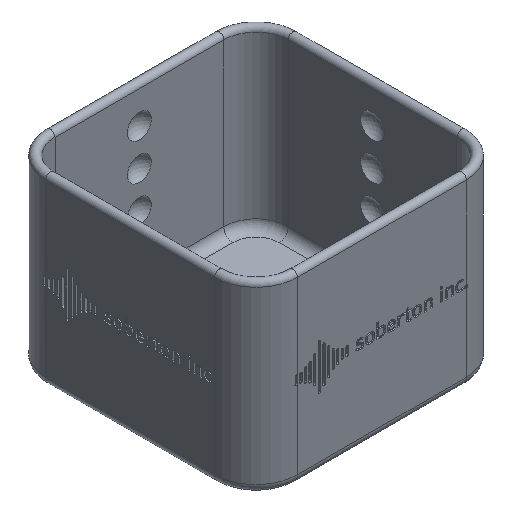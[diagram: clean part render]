
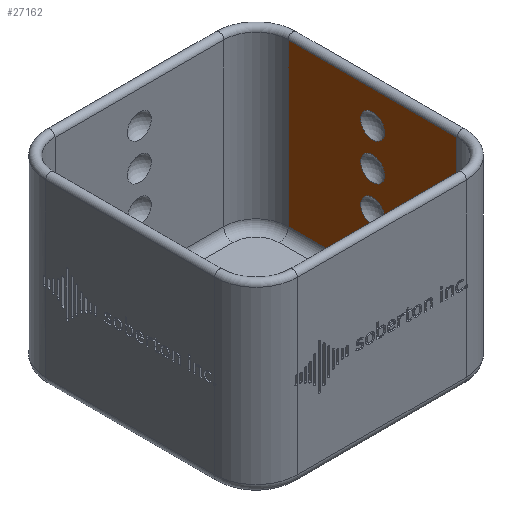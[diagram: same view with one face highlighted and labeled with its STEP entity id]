
A CAD part, isometric view. The second image highlights one B-rep face of the part: STEP entity #27162.
In plain terms, the highlighted planar face has unit normal (-1, 0, 0).
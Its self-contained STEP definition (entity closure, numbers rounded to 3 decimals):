
#2924=PLANE('',#28227);
#4734=VECTOR('',#31231,1.);
#4736=VECTOR('',#31236,1.);
#4737=VECTOR('',#31237,1.);
#4738=VECTOR('',#31238,1.);
#6875=LINE('',#44678,#4734);
#6877=LINE('',#44684,#4736);
#6878=LINE('',#44686,#4737);
#6879=LINE('',#44688,#4738);
#9462=VERTEX_POINT('',#44676);
#9464=VERTEX_POINT('',#44679);
#9466=VERTEX_POINT('',#44685);
#9467=VERTEX_POINT('',#44687);
#9468=VERTEX_POINT('',#44690);
#9469=VERTEX_POINT('',#44692);
#9470=VERTEX_POINT('',#44694);
#9471=VERTEX_POINT('',#44696);
#10236=CIRCLE('',#28228,2.598);
#10237=CIRCLE('',#28229,2.598);
#10238=CIRCLE('',#28230,2.598);
#10239=CIRCLE('',#28231,2.598);
#13552=EDGE_CURVE('',#9462,#9464,#6875,.T.);
#13555=EDGE_CURVE('',#9466,#9462,#6877,.T.);
#13556=EDGE_CURVE('',#9467,#9466,#6878,.T.);
#13557=EDGE_CURVE('',#9464,#9467,#6879,.T.);
#13558=EDGE_CURVE('',#9468,#9468,#10236,.T.);
#13559=EDGE_CURVE('',#9469,#9469,#10237,.T.);
#13560=EDGE_CURVE('',#9470,#9470,#10238,.T.);
#13561=EDGE_CURVE('',#9471,#9471,#10239,.T.);
#20790=ORIENTED_EDGE('',*,*,#13555,.F.);
#20791=ORIENTED_EDGE('',*,*,#13556,.F.);
#20792=ORIENTED_EDGE('',*,*,#13557,.F.);
#20793=ORIENTED_EDGE('',*,*,#13552,.F.);
#20794=ORIENTED_EDGE('',*,*,#13558,.T.);
#20795=ORIENTED_EDGE('',*,*,#13559,.T.);
#20796=ORIENTED_EDGE('',*,*,#13560,.T.);
#20797=ORIENTED_EDGE('',*,*,#13561,.T.);
#23895=EDGE_LOOP('',(#20790,#20791,#20792,#20793));
#23896=EDGE_LOOP('',(#20794));
#23897=EDGE_LOOP('',(#20795));
#23898=EDGE_LOOP('',(#20796));
#23899=EDGE_LOOP('',(#20797));
#25584=FACE_BOUND('',#23895,.T.);
#25585=FACE_BOUND('',#23896,.T.);
#25586=FACE_BOUND('',#23897,.T.);
#25587=FACE_BOUND('',#23898,.T.);
#25588=FACE_BOUND('',#23899,.T.);
#27162=ADVANCED_FACE('',(#25584,#25585,#25586,#25587,#25588),#2924,.F.);
#28227=AXIS2_PLACEMENT_3D('',#44683,#31235,$);
#28228=AXIS2_PLACEMENT_3D('',#44689,#31239,#31240);
#28229=AXIS2_PLACEMENT_3D('',#44691,#31241,#31242);
#28230=AXIS2_PLACEMENT_3D('',#44693,#31243,#31244);
#28231=AXIS2_PLACEMENT_3D('',#44695,#31245,#31246);
#31231=DIRECTION('',(0.,0.,-1.));
#31235=DIRECTION('',(1.,0.,0.));
#31236=DIRECTION('',(0.,-1.,0.));
#31237=DIRECTION('',(0.,0.,1.));
#31238=DIRECTION('',(0.,1.,0.));
#31239=DIRECTION('',(1.,0.,0.));
#31240=DIRECTION('',(0.,0.,-2.598));
#31241=DIRECTION('',(1.,0.,0.));
#31242=DIRECTION('',(0.,0.,-2.598));
#31243=DIRECTION('',(1.,0.,0.));
#31244=DIRECTION('',(0.,0.,-2.598));
#31245=DIRECTION('',(1.,0.,0.));
#31246=DIRECTION('',(0.,0.,-2.598));
#44676=CARTESIAN_POINT('',(52.5,9.,39.));
#44678=CARTESIAN_POINT('',(52.5,9.,0.));
#44679=CARTESIAN_POINT('',(52.5,9.,4.));
#44683=CARTESIAN_POINT('',(52.5,27.25,0.));
#44684=CARTESIAN_POINT('',(52.5,27.25,39.));
#44685=CARTESIAN_POINT('',(52.5,45.5,39.));
#44686=CARTESIAN_POINT('',(52.5,45.5,0.));
#44687=CARTESIAN_POINT('',(52.5,45.5,4.));
#44688=CARTESIAN_POINT('',(52.5,27.25,4.));
#44689=CARTESIAN_POINT('',(52.5,27.25,32.));
#44690=CARTESIAN_POINT('',(52.5,27.25,34.598));
#44691=CARTESIAN_POINT('',(52.5,27.25,24.));
#44692=CARTESIAN_POINT('',(52.5,27.25,26.598));
#44693=CARTESIAN_POINT('',(52.5,27.25,16.));
#44694=CARTESIAN_POINT('',(52.5,27.25,18.598));
#44695=CARTESIAN_POINT('',(52.5,27.25,8.));
#44696=CARTESIAN_POINT('',(52.5,27.25,10.598));
